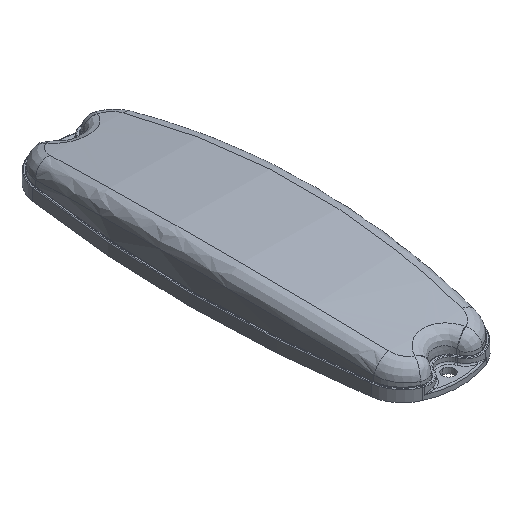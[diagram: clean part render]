
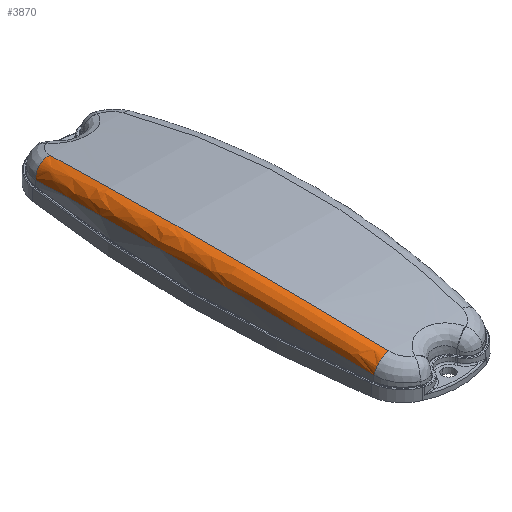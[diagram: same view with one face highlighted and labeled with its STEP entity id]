
A CAD part, isometric view. The second image highlights one B-rep face of the part: STEP entity #3870.
In plain terms, the highlighted free-form (B-spline) face has degree [5, 5] with [9, 9] control points.
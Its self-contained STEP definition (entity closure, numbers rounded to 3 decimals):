
#2187=CARTESIAN_POINT('Vertex',(-25.28,116.451,21.362)) ;
#2191=CARTESIAN_POINT('Control Point',(-25.28,-116.451,21.362)) ;
#2192=CARTESIAN_POINT('Control Point',(-31.58,-70.568,29.009)) ;
#2193=CARTESIAN_POINT('Control Point',(-34.861,-23.657,32.959)) ;
#2194=CARTESIAN_POINT('Control Point',(-34.861,23.657,32.959)) ;
#2195=CARTESIAN_POINT('Control Point',(-31.58,70.568,29.009)) ;
#2196=CARTESIAN_POINT('Control Point',(-25.28,116.451,21.362)) ;
#2197=CARTESIAN_POINT('Vertex',(-25.28,-116.451,21.362)) ;
#3103=CARTESIAN_POINT('Vertex',(-35.178,-116.214,11.673)) ;
#3734=CARTESIAN_POINT('Vertex',(-35.178,116.214,11.673)) ;
#3738=CARTESIAN_POINT('Control Point',(-25.28,116.451,21.362)) ;
#3739=CARTESIAN_POINT('Control Point',(-28.312,116.861,21.294)) ;
#3740=CARTESIAN_POINT('Control Point',(-31.347,117.081,20.073)) ;
#3741=CARTESIAN_POINT('Control Point',(-33.777,117.023,17.694)) ;
#3742=CARTESIAN_POINT('Control Point',(-35.056,116.701,14.692)) ;
#3743=CARTESIAN_POINT('Control Point',(-35.178,116.214,11.673)) ;
#3761=CARTESIAN_POINT('Control Point',(-25.28,-116.451,21.362)) ;
#3762=CARTESIAN_POINT('Control Point',(-26.796,-116.656,21.328)) ;
#3763=CARTESIAN_POINT('Control Point',(-28.312,-116.813,21.005)) ;
#3764=CARTESIAN_POINT('Control Point',(-29.754,-116.912,20.394)) ;
#3765=CARTESIAN_POINT('Control Point',(-32.343,-116.984,18.661)) ;
#3766=CARTESIAN_POINT('Control Point',(-34.128,-116.808,16.113)) ;
#3767=CARTESIAN_POINT('Control Point',(-34.766,-116.659,14.687)) ;
#3768=CARTESIAN_POINT('Control Point',(-35.117,-116.457,13.182)) ;
#3769=CARTESIAN_POINT('Control Point',(-35.178,-116.214,11.673)) ;
#3770=CARTESIAN_POINT('Control Point',(-26.758,-105.687,23.156)) ;
#3771=CARTESIAN_POINT('Control Point',(-28.281,-105.875,23.128)) ;
#3772=CARTESIAN_POINT('Control Point',(-29.804,-106.019,22.809)) ;
#3773=CARTESIAN_POINT('Control Point',(-31.252,-106.11,22.2)) ;
#3774=CARTESIAN_POINT('Control Point',(-33.85,-106.176,20.464)) ;
#3775=CARTESIAN_POINT('Control Point',(-35.636,-106.015,17.904)) ;
#3776=CARTESIAN_POINT('Control Point',(-36.273,-105.879,16.472)) ;
#3777=CARTESIAN_POINT('Control Point',(-36.62,-105.695,14.959)) ;
#3778=CARTESIAN_POINT('Control Point',(-36.675,-105.473,13.441)) ;
#3779=CARTESIAN_POINT('Control Point',(-28.069,-94.867,24.746)) ;
#3780=CARTESIAN_POINT('Control Point',(-29.598,-95.037,24.724)) ;
#3781=CARTESIAN_POINT('Control Point',(-31.127,-95.167,24.408)) ;
#3782=CARTESIAN_POINT('Control Point',(-32.581,-95.25,23.8)) ;
#3783=CARTESIAN_POINT('Control Point',(-35.187,-95.309,22.062)) ;
#3784=CARTESIAN_POINT('Control Point',(-36.975,-95.164,19.493)) ;
#3785=CARTESIAN_POINT('Control Point',(-37.61,-95.042,18.054)) ;
#3786=CARTESIAN_POINT('Control Point',(-37.954,-94.875,16.534)) ;
#3787=CARTESIAN_POINT('Control Point',(-38.003,-94.674,15.009)) ;
#3788=CARTESIAN_POINT('Control Point',(-29.212,-83.998,26.13)) ;
#3789=CARTESIAN_POINT('Control Point',(-30.746,-84.15,26.113)) ;
#3790=CARTESIAN_POINT('Control Point',(-32.28,-84.266,25.8)) ;
#3791=CARTESIAN_POINT('Control Point',(-33.739,-84.339,25.193)) ;
#3792=CARTESIAN_POINT('Control Point',(-36.352,-84.393,23.452)) ;
#3793=CARTESIAN_POINT('Control Point',(-38.141,-84.264,20.875)) ;
#3794=CARTESIAN_POINT('Control Point',(-38.775,-84.155,19.43)) ;
#3795=CARTESIAN_POINT('Control Point',(-39.115,-84.006,17.904)) ;
#3796=CARTESIAN_POINT('Control Point',(-39.16,-83.828,16.373)) ;
#3797=CARTESIAN_POINT('Control Point',(-33.347,-37.497,31.137)) ;
#3798=CARTESIAN_POINT('Control Point',(-34.901,-37.567,31.137)) ;
#3799=CARTESIAN_POINT('Control Point',(-36.454,-37.621,30.836)) ;
#3800=CARTESIAN_POINT('Control Point',(-37.93,-37.656,30.232)) ;
#3801=CARTESIAN_POINT('Control Point',(-40.569,-37.681,28.484)) ;
#3802=CARTESIAN_POINT('Control Point',(-42.362,-37.622,25.876)) ;
#3803=CARTESIAN_POINT('Control Point',(-42.992,-37.572,24.411)) ;
#3804=CARTESIAN_POINT('Control Point',(-43.32,-37.503,22.863)) ;
#3805=CARTESIAN_POINT('Control Point',(-43.347,-37.421,21.309)) ;
#3806=CARTESIAN_POINT('Control Point',(-34.323,9.568,32.311)) ;
#3807=CARTESIAN_POINT('Control Point',(-35.881,9.585,32.316)) ;
#3808=CARTESIAN_POINT('Control Point',(-37.44,9.599,32.017)) ;
#3809=CARTESIAN_POINT('Control Point',(-38.92,9.607,31.415)) ;
#3810=CARTESIAN_POINT('Control Point',(-41.565,9.614,29.666)) ;
#3811=CARTESIAN_POINT('Control Point',(-43.36,9.599,27.05)) ;
#3812=CARTESIAN_POINT('Control Point',(-43.987,9.586,25.58)) ;
#3813=CARTESIAN_POINT('Control Point',(-44.313,9.569,24.026)) ;
#3814=CARTESIAN_POINT('Control Point',(-44.335,9.548,22.467)) ;
#3815=CARTESIAN_POINT('Control Point',(-33.154,45.61,30.902)) ;
#3816=CARTESIAN_POINT('Control Point',(-34.707,45.695,30.901)) ;
#3817=CARTESIAN_POINT('Control Point',(-36.26,45.761,30.599)) ;
#3818=CARTESIAN_POINT('Control Point',(-37.735,45.802,29.996)) ;
#3819=CARTESIAN_POINT('Control Point',(-40.373,45.833,28.248)) ;
#3820=CARTESIAN_POINT('Control Point',(-42.166,45.761,25.641)) ;
#3821=CARTESIAN_POINT('Control Point',(-42.795,45.7,24.177)) ;
#3822=CARTESIAN_POINT('Control Point',(-43.124,45.617,22.63)) ;
#3823=CARTESIAN_POINT('Control Point',(-43.152,45.517,21.078)) ;
#3824=CARTESIAN_POINT('Control Point',(-30.102,81.332,27.215)) ;
#3825=CARTESIAN_POINT('Control Point',(-31.64,81.48,27.201)) ;
#3826=CARTESIAN_POINT('Control Point',(-33.178,81.595,26.891)) ;
#3827=CARTESIAN_POINT('Control Point',(-34.64,81.667,26.284)) ;
#3828=CARTESIAN_POINT('Control Point',(-37.259,81.72,24.542)) ;
#3829=CARTESIAN_POINT('Control Point',(-39.049,81.594,21.958)) ;
#3830=CARTESIAN_POINT('Control Point',(-39.682,81.487,20.509)) ;
#3831=CARTESIAN_POINT('Control Point',(-40.02,81.342,18.979)) ;
#3832=CARTESIAN_POINT('Control Point',(-40.061,81.167,17.443)) ;
#3833=CARTESIAN_POINT('Control Point',(-25.28,116.451,21.362)) ;
#3834=CARTESIAN_POINT('Control Point',(-26.796,116.656,21.328)) ;
#3835=CARTESIAN_POINT('Control Point',(-28.312,116.813,21.005)) ;
#3836=CARTESIAN_POINT('Control Point',(-29.754,116.912,20.394)) ;
#3837=CARTESIAN_POINT('Control Point',(-32.343,116.984,18.661)) ;
#3838=CARTESIAN_POINT('Control Point',(-34.128,116.808,16.113)) ;
#3839=CARTESIAN_POINT('Control Point',(-34.766,116.659,14.687)) ;
#3840=CARTESIAN_POINT('Control Point',(-35.117,116.457,13.182)) ;
#3841=CARTESIAN_POINT('Control Point',(-35.178,116.214,11.673)) ;
#3843=CARTESIAN_POINT('Control Point',(-25.28,-116.451,21.362)) ;
#3844=CARTESIAN_POINT('Control Point',(-28.312,-116.861,21.294)) ;
#3845=CARTESIAN_POINT('Control Point',(-31.347,-117.081,20.073)) ;
#3846=CARTESIAN_POINT('Control Point',(-33.777,-117.023,17.694)) ;
#3847=CARTESIAN_POINT('Control Point',(-35.056,-116.701,14.692)) ;
#3848=CARTESIAN_POINT('Control Point',(-35.178,-116.214,11.673)) ;
#3851=CARTESIAN_POINT('Control Point',(-35.178,-116.214,11.673)) ;
#3852=CARTESIAN_POINT('Control Point',(-36.675,-105.473,13.441)) ;
#3853=CARTESIAN_POINT('Control Point',(-38.003,-94.674,15.009)) ;
#3854=CARTESIAN_POINT('Control Point',(-39.16,-83.828,16.373)) ;
#3855=CARTESIAN_POINT('Control Point',(-42.467,-47.17,20.272)) ;
#3856=CARTESIAN_POINT('Control Point',(-43.779,-10.16,21.814)) ;
#3857=CARTESIAN_POINT('Control Point',(-43.689,15.912,21.709)) ;
#3858=CARTESIAN_POINT('Control Point',(-42.174,51.75,19.928)) ;
#3859=CARTESIAN_POINT('Control Point',(-38.791,87.228,15.939)) ;
#3860=CARTESIAN_POINT('Control Point',(-37.724,96.932,14.679)) ;
#3861=CARTESIAN_POINT('Control Point',(-36.519,106.596,13.256)) ;
#3862=CARTESIAN_POINT('Control Point',(-35.178,116.214,11.673)) ;
#3865=ORIENTED_EDGE('',*,*,#3849,.T.) ;
#3866=ORIENTED_EDGE('',*,*,#2199,.T.) ;
#3867=ORIENTED_EDGE('',*,*,#3744,.F.) ;
#3868=ORIENTED_EDGE('',*,*,#3863,.F.) ;
#3870=ADVANCED_FACE('',(#3869),#3760,.T.) ;
#2190=B_SPLINE_CURVE_WITH_KNOTS('',5,(#2191,#2192,#2193,#2194,#2195,#2196),.UNSPECIFIED.,.F.,.U.,(6,6),(113.05,444.648),.UNSPECIFIED.) ;
#3737=B_SPLINE_CURVE_WITH_KNOTS('',5,(#3738,#3739,#3740,#3741,#3742,#3743),.UNSPECIFIED.,.F.,.U.,(6,6),(0.,10.),.UNSPECIFIED.) ;
#3842=B_SPLINE_CURVE_WITH_KNOTS('',5,(#3843,#3844,#3845,#3846,#3847,#3848),.UNSPECIFIED.,.F.,.U.,(6,6),(0.,10.),.UNSPECIFIED.) ;
#3850=B_SPLINE_CURVE_WITH_KNOTS('',5,(#3851,#3852,#3853,#3854,#3855,#3856,#3857,#3858,#3859,#3860,#3861,#3862),.UNSPECIFIED.,.F.,.U.,(6,3,3,6),(113.05,190.841,374.991,444.648),.UNSPECIFIED.) ;
#3760=B_SPLINE_SURFACE_WITH_KNOTS('',5,5,((#3761,#3762,#3763,#3764,#3765,#3766,#3767,#3768,#3769),(#3770,#3771,#3772,#3773,#3774,#3775,#3776,#3777,#3778),(#3779,#3780,#3781,#3782,#3783,#3784,#3785,#3786,#3787),(#3788,#3789,#3790,#3791,#3792,#3793,#3794,#3795,#3796),(#3797,#3798,#3799,#3800,#3801,#3802,#3803,#3804,#3805),(#3806,#3807,#3808,#3809,#3810,#3811,#3812,#3813,#3814),(#3815,#3816,#3817,#3818,#3819,#3820,#3821,#3822,#3823),(#3824,#3825,#3826,#3827,#3828,#3829,#3830,#3831,#3832),(#3833,#3834,#3835,#3836,#3837,#3838,#3839,#3840,#3841)),.UNSPECIFIED.,.F.,.F.,.U.,(6,3,6),(6,3,6),(113.05,190.841,444.648),(0.,5.,10.),.UNSPECIFIED.) ;
#2199=EDGE_CURVE('',#2198,#2188,#2190,.T.) ;
#3744=EDGE_CURVE('',#3735,#2188,#3737,.F.) ;
#3849=EDGE_CURVE('',#3104,#2198,#3842,.F.) ;
#3863=EDGE_CURVE('',#3104,#3735,#3850,.T.) ;
#3864=EDGE_LOOP('',(#3865,#3866,#3867,#3868)) ;
#3869=FACE_OUTER_BOUND('',#3864,.T.) ;
#2188=VERTEX_POINT('',#2187) ;
#2198=VERTEX_POINT('',#2197) ;
#3104=VERTEX_POINT('',#3103) ;
#3735=VERTEX_POINT('',#3734) ;
